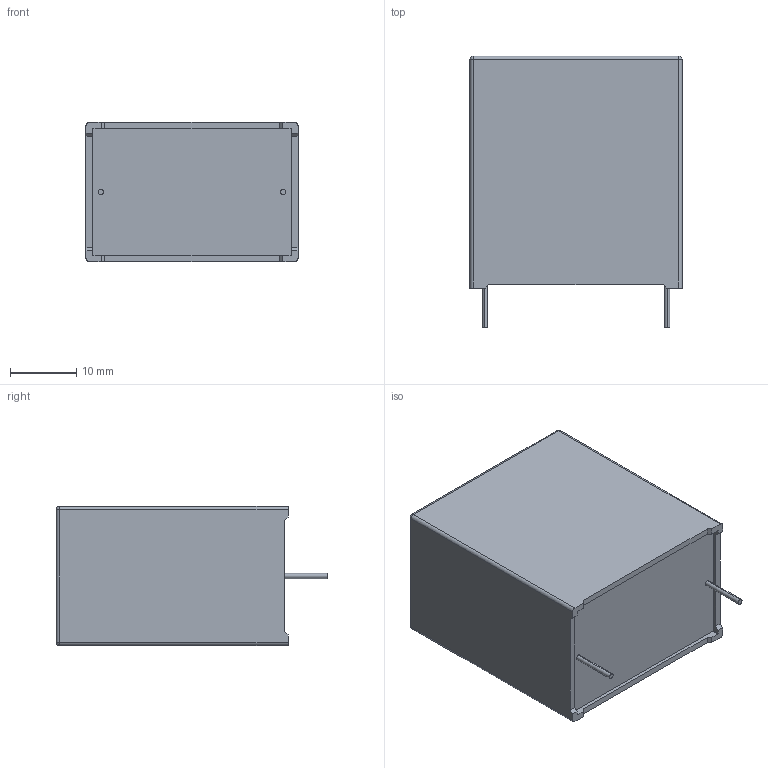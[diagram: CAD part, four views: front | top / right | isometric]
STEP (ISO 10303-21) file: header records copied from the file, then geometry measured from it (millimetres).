
FILE_DESCRIPTION (( 'STEP AP203' ), '1' );
FILE_NAME ('DC_Link_21x35x32_2pins.step', '2017-04-03T15:59:52', ( 'work' ), ( 'Hewlett-Packard Company' ), 'SwSTEP 2.0', 'SolidWorks 2017', '' );
FILE_SCHEMA (( 'CONFIG_CONTROL_DESIGN' ));
Length unit declared in the file: millimetre
Products named in the file (1): DC_Link_21x35x32_2pins
Bounding box: 32 x 41 x 21 mm (x, y, z)
Volume: 22897 mm3; surface area: 5047.5 mm2
Topology: 1 solids, 1 shells, 116 faces, 307 edges, 198 vertices
Faces by surface type: plane 80, cylinder 16, bspline 16, sphere 4
Entity records: 4292 total; most frequent: CARTESIAN_POINT 1442, ORIENTED_EDGE 606, DIRECTION 505, EDGE_CURVE 303, VECTOR 239, LINE 239, VERTEX_POINT 198, AXIS2_PLACEMENT_3D 133
